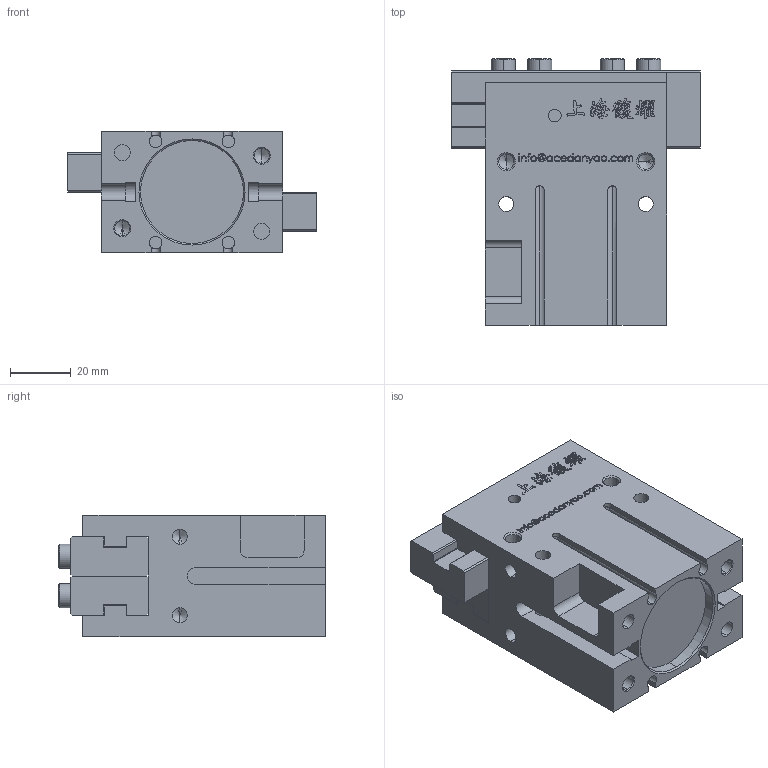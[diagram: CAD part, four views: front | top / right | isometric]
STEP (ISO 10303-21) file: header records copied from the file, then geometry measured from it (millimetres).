
FILE_DESCRIPTION (( 'STEP AP203' ), '1' );
FILE_NAME ('PEP-32-C1-VT-原始檔-組合-W106.04.20.STEP', '2017-04-20T03:16:52', ( 'DanyaoCAD' ), ( '' ), 'SwSTEP 2.0', 'SolidWorks 2016', '' );
FILE_SCHEMA (( 'CONFIG_CONTROL_DESIGN' ));
Length unit declared in the file: millimetre
Products named in the file (3): PEP-32-C1-VT-原始檔-組合-W106.04.20; Corpo; Griffa
Assembly tree (3 placements, depth 2):
  PEP-32-C1-VT-原始檔-組合-W106.04.20
    Corpo
    Griffa  x2
Bounding box: 82 x 88 x 40 mm (x, y, z)
Volume: 180960.3 mm3; surface area: 44960 mm2
Topology: 3 solids, 3 shells, 1043 faces, 2904 edges, 1908 vertices
Faces by surface type: bspline 640, plane 257, cylinder 98, cone 48
Entity records: 48585 total; most frequent: CARTESIAN_POINT 26873, ORIENTED_EDGE 5560, EDGE_CURVE 2780, DIRECTION 2416, VERTEX_POINT 1842, VECTOR 1294, LINE 1294, B_SPLINE_CURVE_WITH_KNOTS 1292
